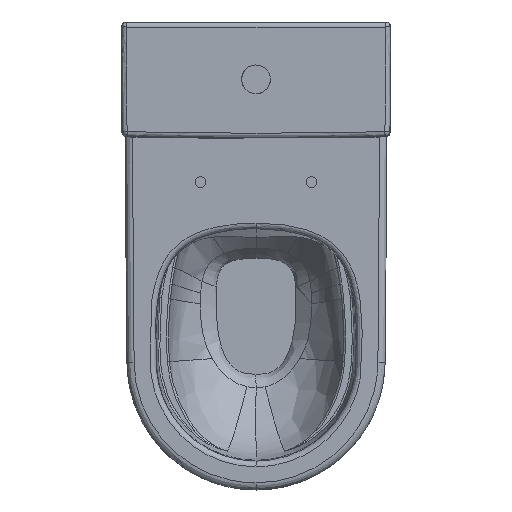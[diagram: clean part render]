
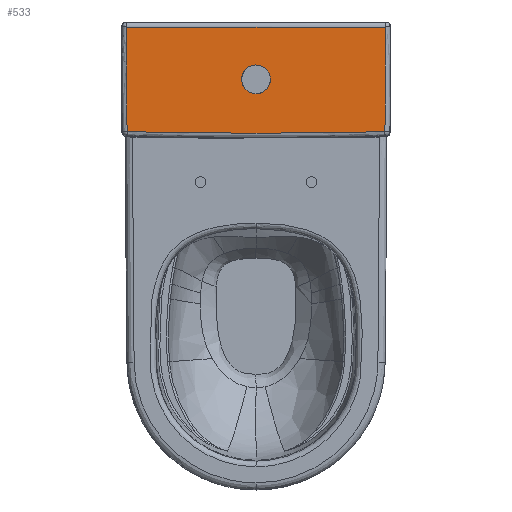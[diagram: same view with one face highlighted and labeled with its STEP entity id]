
A CAD part, top view. The second image highlights one B-rep face of the part: STEP entity #533.
In plain terms, the highlighted planar face has unit normal (0, 0, 1).
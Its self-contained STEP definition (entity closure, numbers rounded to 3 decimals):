
#182=CIRCLE('',#4656,5825.423);
#183=CIRCLE('',#4658,5825.423);
#296=FACE_BOUND('',#1164,.T.);
#297=FACE_BOUND('',#1165,.T.);
#533=ADVANCED_FACE('',(#296,#297),#762,.T.);
#762=PLANE('',#4659);
#1164=EDGE_LOOP('',(#2500,#2501,#2502,#2503));
#1165=EDGE_LOOP('',(#2504));
#1414=B_SPLINE_CURVE_WITH_KNOTS('',3,(#6102,#6103,#6104,#6105,#6106,#6107,
#6108,#6109,#6110,#6111,#6112,#6113,#6114,#6115,#6116,#6117,#6118,#6119,
#6120,#6121,#6122,#6123,#6124,#6125,#6126,#6127,#6128,#6129,#6130,#6131,
#6132,#6133,#6134,#6135),.UNSPECIFIED.,.T.,.F.,(1,3,2,2,2,2,2,2,2,2,2,2,
2,2,2,2,2,3,1),(-0.063,0.,0.063,0.125,0.188,0.25,0.313,0.375,0.438,
0.5,0.563,0.625,0.688,0.75,0.813,0.875,0.938,1.,1.063),
 .UNSPECIFIED.);
#1819=LINE('',#11377,#1995);
#1995=VECTOR('',#5052,1.);
#2500=ORIENTED_EDGE('',*,*,#4099,.F.);
#2501=ORIENTED_EDGE('',*,*,#4100,.F.);
#2502=ORIENTED_EDGE('',*,*,#4101,.F.);
#2503=ORIENTED_EDGE('',*,*,#4102,.F.);
#2504=ORIENTED_EDGE('',*,*,#3918,.T.);
#3499=VERTEX_POINT('',#6136);
#3604=VERTEX_POINT('',#11378);
#3605=VERTEX_POINT('',#11379);
#3606=VERTEX_POINT('',#11381);
#3607=VERTEX_POINT('',#11383);
#3918=EDGE_CURVE('',#3499,#3499,#1414,.T.);
#4099=EDGE_CURVE('',#3604,#3605,#1819,.T.);
#4100=EDGE_CURVE('',#3606,#3604,#182,.T.);
#4101=EDGE_CURVE('',#3607,#3606,#4585,.T.);
#4102=EDGE_CURVE('',#3605,#3607,#183,.T.);
#4585=ELLIPSE('',#4657,7996.265,7996.265);
#4656=AXIS2_PLACEMENT_3D('',#11380,#5053,#5054);
#4657=AXIS2_PLACEMENT_3D('',#11382,#5055,#5056);
#4658=AXIS2_PLACEMENT_3D('',#11384,#5057,#5058);
#4659=AXIS2_PLACEMENT_3D('',#11385,#5059,#5060);
#5052=DIRECTION('',(1.,0.,0.));
#5053=DIRECTION('',(0.,0.,-1.));
#5054=DIRECTION('',(-1.,0.,0.));
#5055=DIRECTION('',(0.,0.,-1.));
#5056=DIRECTION('',(0.,-1.,0.));
#5057=DIRECTION('',(0.,0.,-1.));
#5058=DIRECTION('',(-1.,0.,0.));
#5059=DIRECTION('',(0.,0.,1.));
#5060=DIRECTION('',(-1.,0.,0.));
#6102=CARTESIAN_POINT('',(-20.,-77.175,395.));
#6103=CARTESIAN_POINT('',(-20.,-74.523,395.));
#6104=CARTESIAN_POINT('',(-19.493,-71.971,395.));
#6105=CARTESIAN_POINT('',(-17.463,-67.071,395.));
#6106=CARTESIAN_POINT('',(-16.018,-64.908,395.));
#6107=CARTESIAN_POINT('',(-12.267,-61.157,395.));
#6108=CARTESIAN_POINT('',(-10.104,-59.712,395.));
#6109=CARTESIAN_POINT('',(-5.203,-57.682,395.));
#6110=CARTESIAN_POINT('',(-2.652,-57.175,395.));
#6111=CARTESIAN_POINT('',(2.652,-57.175,395.));
#6112=CARTESIAN_POINT('',(5.203,-57.682,395.));
#6113=CARTESIAN_POINT('',(10.104,-59.712,395.));
#6114=CARTESIAN_POINT('',(12.267,-61.157,395.));
#6115=CARTESIAN_POINT('',(16.017,-64.908,395.));
#6116=CARTESIAN_POINT('',(17.463,-67.071,395.));
#6117=CARTESIAN_POINT('',(19.492,-71.971,395.));
#6118=CARTESIAN_POINT('',(20.,-74.522,395.));
#6119=CARTESIAN_POINT('',(20.,-79.827,395.));
#6120=CARTESIAN_POINT('',(19.493,-82.378,395.));
#6121=CARTESIAN_POINT('',(17.463,-87.279,395.));
#6122=CARTESIAN_POINT('',(16.018,-89.441,395.));
#6123=CARTESIAN_POINT('',(12.267,-93.192,395.));
#6124=CARTESIAN_POINT('',(10.104,-94.637,395.));
#6125=CARTESIAN_POINT('',(5.203,-96.667,395.));
#6126=CARTESIAN_POINT('',(2.652,-97.175,395.));
#6127=CARTESIAN_POINT('',(-2.652,-97.175,395.));
#6128=CARTESIAN_POINT('',(-5.203,-96.667,395.));
#6129=CARTESIAN_POINT('',(-10.104,-94.637,395.));
#6130=CARTESIAN_POINT('',(-12.267,-93.192,395.));
#6131=CARTESIAN_POINT('',(-16.017,-89.441,395.));
#6132=CARTESIAN_POINT('',(-17.463,-87.278,395.));
#6133=CARTESIAN_POINT('',(-19.492,-82.378,395.));
#6134=CARTESIAN_POINT('',(-20.,-79.827,395.));
#6135=CARTESIAN_POINT('',(-20.,-77.175,395.));
#6136=CARTESIAN_POINT('',(-20.,-77.175,395.));
#11377=CARTESIAN_POINT('',(0.,-4.175,395.));
#11378=CARTESIAN_POINT('',(-180.282,-4.175,395.));
#11379=CARTESIAN_POINT('',(180.282,-4.175,395.));
#11380=CARTESIAN_POINT('',(5644.797,-67.505,395.));
#11381=CARTESIAN_POINT('',(-180.037,-150.35,395.));
#11382=CARTESIAN_POINT('',(0.,7843.889,395.));
#11383=CARTESIAN_POINT('',(180.037,-150.35,395.));
#11384=CARTESIAN_POINT('',(-5644.797,-67.505,395.));
#11385=CARTESIAN_POINT('',(0.,2.825,395.));
